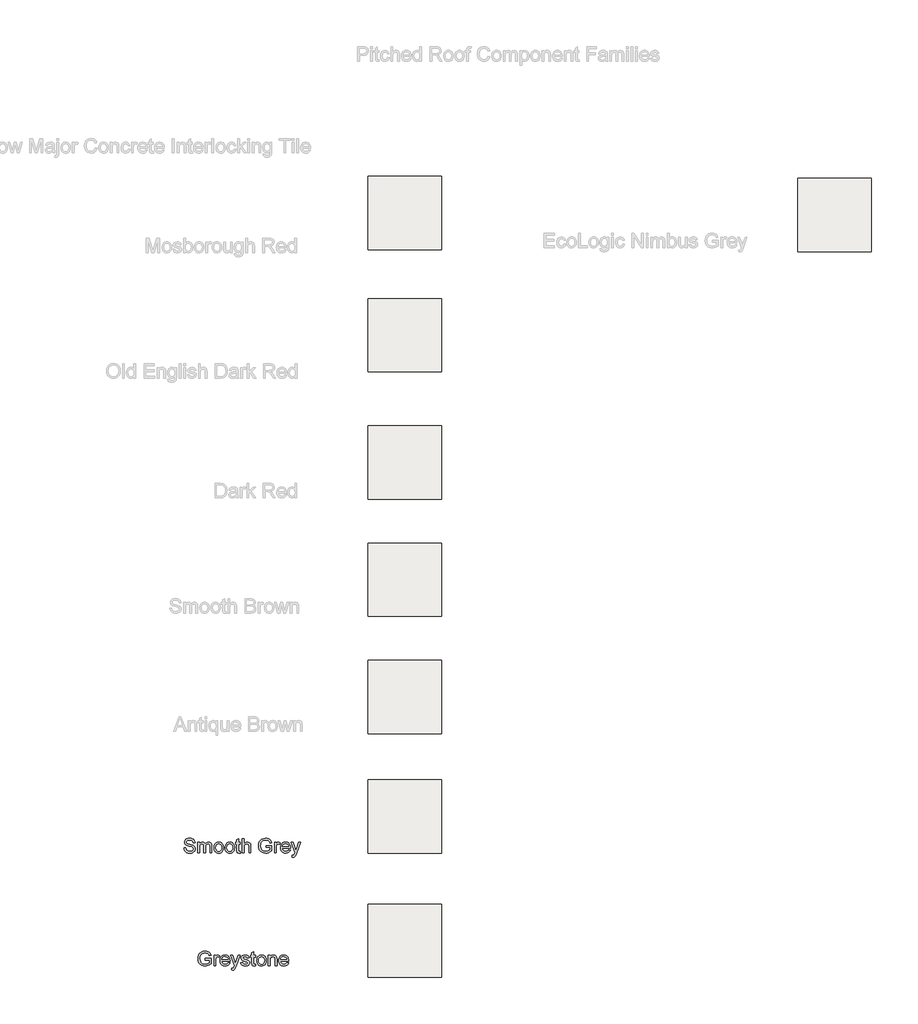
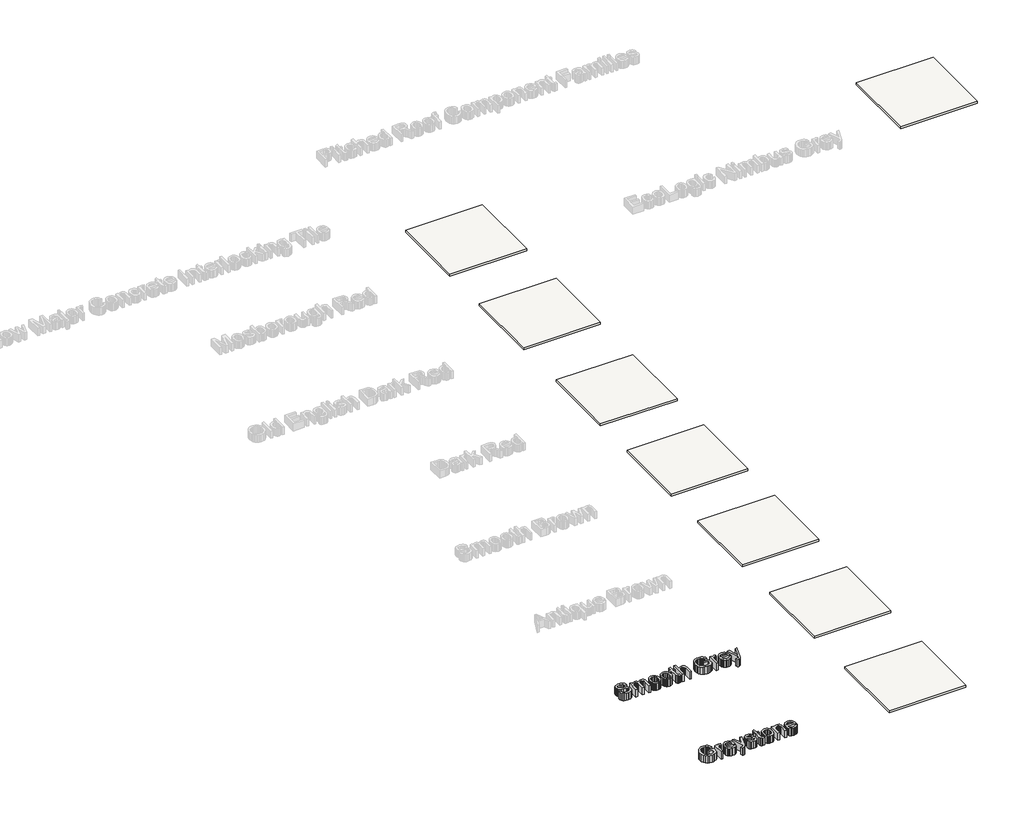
# One storey, part 1 of 6: 8 coverings, 2 proxies.
"""IFC4 building model written with IfcOpenShell, lengths in millimetres."""

from ifc_helpers import new_model, si_unit, frame, origin, place, context, project, spatial, polyline, outline, extrude, element, save

model = new_model("IFC4")

# Units and contexts
model_context = context("Model", 3, world=origin())
ifc_project = project(units=[si_unit("LENGTHUNIT", "METRE", prefix="MILLI")], contexts=[model_context])

# Site, building, storey
site = spatial("IfcSite", under=ifc_project)
building = spatial("IfcBuilding", under=site)
storey = spatial("IfcBuildingStorey", under=building, Name="Marley Concrete Interlocking", Elevation=3000.0)

# Proxies
placement = place(None, origin())
element("IfcBuildingElementProxy", 1, Name="600mm Arial", ObjectType="600mm Arial", at=placement, inside=storey, context=model_context, shape_type="SweptSolid", body=[
    extrude(outline(polyline([(-14943.8968216, -8811.7652828), (-14906.9737447, -8811.7652828), (-14902.7369658, -8832.2550665), (-14895.0747062, -8848.7244175), (-14883.1215812, -8861.7953309), (-14866.0122062, -8872.0898021), (-14845.0987447, -8878.7694896), (-14821.7333601, -8880.9960521), (-14801.1624466, -8879.310355), (-14783.1516293, -8874.2532636), (-14768.5572783, -8866.2484559), (-14758.2357639, -8855.7196098), (-14752.0969418, -8843.6312684), (-14750.0506677, -8830.9479752), (-14751.5831197, -8818.5892011), (-14756.1804754, -8807.9071098), (-14765.5194177, -8798.793528), (-14781.2766293, -8791.1402828), (-14835.0386485, -8777.0417252), (-14870.3301149, -8767.7117973), (-14892.9112447, -8758.8325905), (-14911.2916533, -8746.4107155), (-14924.3174947, -8731.356629), (-14932.0789129, -8713.9948502), (-14934.6660524, -8694.6498982), (-14931.4659322, -8673.0242973), (-14921.8655716, -8652.8590328), (-14906.1173745, -8635.7676867), (-14884.4737447, -8623.3638405), (-14858.4941774, -8615.8187684), (-14829.7381677, -8613.3037444), (-14798.5843216, -8615.9359559), (-14771.3247062, -8623.8325905), (-14748.9328793, -8636.8313886), (-14732.3823985, -8654.7700905), (-14721.9076389, -8676.5309078), (-14717.7429754, -8700.9960521), (-14754.6660524, -8700.9960521), (-14761.4448985, -8678.9648021), (-14775.5795139, -8663.0633598), (-14797.6648504, -8653.4359559), (-14828.2958601, -8650.2268213), (-14859.6480235, -8653.3998982), (-14881.156437, -8662.919129), (-14893.5963408, -8676.9275425), (-14897.7429754, -8693.5681675), (-14894.8042735, -8707.7568694), (-14885.9881677, -8719.169129), (-14865.1468216, -8729.3734559), (-14825.6997062, -8739.794129), (-14760.3631677, -8758.3277828), (-14739.3144899, -8771.7232155), (-14724.6299947, -8788.2556675), (-14716.0031918, -8807.7448502), (-14713.1275908, -8830.0104752), (-14716.4358841, -8852.7718934), (-14726.3607639, -8874.1811482), (-14742.4965812, -8892.606629), (-14764.437687, -8906.4167252), (-14790.8229033, -8915.043528), (-14820.2910524, -8917.919129), (-14856.4659322, -8914.8181675), (-14886.2405716, -8905.5152828), (-14909.9575187, -8889.9744175), (-14927.9593216, -8868.1595136), (-14939.515812, -8841.5849944), (-14943.8968216, -8811.7652828)])), frame((0.0, 0.0, 3000.0), z_axis=(0.0, 0.0, 1.0), x_axis=(1.0, 0.0, 0.0)), (0.0, 0.0, 1.0), 150.0),
    extrude(outline(polyline([(-14662.3583601, -8913.3037444), (-14662.3583601, -8696.3806675), (-14625.4352831, -8696.3806675), (-14625.4352831, -8732.0777828), (-14614.3295139, -8715.6805473), (-14600.0506677, -8702.8349944), (-14583.0855235, -8694.5327107), (-14563.9208601, -8691.7652828), (-14543.3860043, -8694.5867973), (-14526.9256677, -8703.0513405), (-14514.6299947, -8716.6000184), (-14506.5891293, -8734.6739367), (-14493.1305956, -8715.9014006), (-14477.7790331, -8702.4924463), (-14460.5344418, -8694.4470737), (-14441.3968216, -8691.7652828), (-14413.6414129, -8696.2274223), (-14393.1155716, -8709.6138405), (-14380.4322783, -8732.2851146), (-14376.2045139, -8764.6018213), (-14376.2045139, -8913.3037444), (-14413.1275908, -8913.3037444), (-14413.1275908, -8780.4672059), (-14416.5530716, -8749.637879), (-14421.3667735, -8741.137278), (-14428.9569177, -8734.4575905), (-14438.7195379, -8730.1306675), (-14450.0506677, -8728.6883598), (-14470.0536726, -8732.3842732), (-14486.3607639, -8743.4720136), (-14497.2051149, -8762.7087925), (-14500.8198985, -8790.8518213), (-14500.8198985, -8913.3037444), (-14537.7429754, -8913.3037444), (-14537.7429754, -8776.356629), (-14539.8793937, -8755.4792252), (-14546.2886485, -8740.5873982), (-14557.5656918, -8731.6631194), (-14574.3054754, -8728.6883598), (-14588.5302351, -8730.6715328), (-14601.6372062, -8736.6210521), (-14612.4545139, -8746.3926867), (-14619.8102831, -8759.8422059), (-14624.0290331, -8778.5020617), (-14625.4352831, -8803.9047059), (-14625.4352831, -8913.3037444), (-14662.3583601, -8913.3037444)])), frame((0.0, 0.0, 3000.0), z_axis=(0.0, 0.0, 1.0), x_axis=(1.0, 0.0, 0.0)), (0.0, 0.0, 1.0), 150.0),
    extrude(outline(polyline([(-14330.0506677, -8804.8422059), (-14328.053973, -8776.7487564), (-14322.0638889, -8752.5405232), (-14312.0804153, -8732.2175064), (-14298.1035524, -8715.7797059), (-14284.0320379, -8705.2733958), (-14268.500187, -8697.7688886), (-14251.5079995, -8693.2661843), (-14233.0554754, -8691.7652828), (-14212.6851329, -8693.5929571), (-14194.2664129, -8699.07598), (-14177.7993156, -8708.2143514), (-14163.2838408, -8721.0080713), (-14151.4366353, -8737.0244475), (-14142.9743456, -8755.8307877), (-14137.8969718, -8777.4270917), (-14136.2045139, -8801.8133598), (-14139.1973024, -8839.1150425), (-14148.1756677, -8867.5104752), (-14162.8781918, -8888.7754992), (-14183.0434562, -8904.6859559), (-14206.9947783, -8914.6108357), (-14233.0554754, -8917.919129), (-14253.7232939, -8916.0982155), (-14272.3132879, -8910.6354752), (-14288.8254574, -8901.5309078), (-14303.2598024, -8888.7845136), (-14314.980806, -8872.6126386), (-14323.3529514, -8853.231629), (-14328.3762387, -8830.6414848), (-14330.0506677, -8804.8422059)]), holes=[polyline([(-14293.1275908, -8804.7700905), (-14288.8547543, -8838.1865569), (-14276.0362447, -8861.9936482), (-14256.7453793, -8876.2454511), (-14233.0554754, -8880.9960521), (-14209.4737447, -8876.2184078), (-14190.218937, -8861.8854752), (-14177.4004274, -8837.762879), (-14173.1275908, -8803.6162444), (-14177.4274706, -8771.1733357), (-14190.3271101, -8747.6907636), (-14209.608961, -8733.4389607), (-14233.0554754, -8728.6883598), (-14256.7453793, -8733.4209319), (-14276.0362447, -8747.6186482), (-14288.8547543, -8771.371653), (-14293.1275908, -8804.7700905)])]), frame((0.0, 0.0, 3000.0), z_axis=(0.0, 0.0, 1.0), x_axis=(1.0, 0.0, 0.0)), (0.0, 0.0, 1.0), 150.0),
    extrude(outline(polyline([(-14103.8968216, -8804.8422059), (-14101.9001269, -8776.7487564), (-14095.9100427, -8752.5405232), (-14085.9265692, -8732.2175064), (-14071.9497062, -8715.7797059), (-14057.8781918, -8705.2733958), (-14042.3463408, -8697.7688886), (-14025.3541533, -8693.2661843), (-14006.9016293, -8691.7652828), (-13986.5312867, -8693.5929571), (-13968.1125668, -8699.07598), (-13951.6454694, -8708.2143514), (-13937.1299947, -8721.0080713), (-13925.2827891, -8737.0244475), (-13916.8204995, -8755.8307877), (-13911.7431257, -8777.4270917), (-13910.0506677, -8801.8133598), (-13913.0434562, -8839.1150425), (-13922.0218216, -8867.5104752), (-13936.7243456, -8888.7754992), (-13956.8896101, -8904.6859559), (-13980.8409322, -8914.6108357), (-14006.9016293, -8917.919129), (-14027.5694478, -8916.0982155), (-14046.1594418, -8910.6354752), (-14062.6716113, -8901.5309078), (-14077.1059562, -8888.7845136), (-14088.8269598, -8872.6126386), (-14097.1991052, -8853.231629), (-14102.2223925, -8830.6414848), (-14103.8968216, -8804.8422059)]), holes=[polyline([(-14066.9737447, -8804.7700905), (-14062.7009081, -8838.1865569), (-14049.8823985, -8861.9936482), (-14030.5915331, -8876.2454511), (-14006.9016293, -8880.9960521), (-13983.3198985, -8876.2184078), (-13964.0650908, -8861.8854752), (-13951.2465812, -8837.762879), (-13946.9737447, -8803.6162444), (-13951.2736245, -8771.1733357), (-13964.1732639, -8747.6907636), (-13983.4551149, -8733.4389607), (-14006.9016293, -8728.6883598), (-14030.5915331, -8733.4209319), (-14049.8823985, -8747.6186482), (-14062.7009081, -8771.371653), (-14066.9737447, -8804.7700905)])]), frame((0.0, 0.0, 3000.0), z_axis=(0.0, 0.0, 1.0), x_axis=(1.0, 0.0, 0.0)), (0.0, 0.0, 1.0), 150.0),
    extrude(outline(polyline([(-13790.0506677, -8882.5104752), (-13785.4352831, -8914.3854752), (-13813.0554754, -8917.919129), (-13830.7778312, -8916.3866771), (-13843.9929754, -8911.7893213), (-13853.3319177, -8904.7039848), (-13859.4256677, -8895.7075905), (-13862.7790331, -8880.2568694), (-13863.8968216, -8853.8085521), (-13863.8968216, -8733.3037444), (-13891.5891293, -8733.3037444), (-13891.5891293, -8696.3806675), (-13863.8968216, -8696.3806675), (-13863.8968216, -8643.6643213), (-13826.9737447, -8621.9575905), (-13826.9737447, -8696.3806675), (-13790.0506677, -8696.3806675), (-13790.0506677, -8733.3037444), (-13826.9737447, -8733.3037444), (-13826.9737447, -8852.7268213), (-13825.0266293, -8871.7652828), (-13818.7165331, -8878.5080713), (-13806.1323985, -8880.9960521), (-13790.0506677, -8882.5104752)])), frame((0.0, 0.0, 3000.0), z_axis=(0.0, 0.0, 1.0), x_axis=(1.0, 0.0, 0.0)), (0.0, 0.0, 1.0), 150.0),
    extrude(outline(polyline([(-13753.1275908, -8913.3037444), (-13753.1275908, -8617.919129), (-13716.2045139, -8617.919129), (-13716.2045139, -8726.5248982), (-13702.6423144, -8711.3175665), (-13687.4124466, -8700.4551867), (-13670.5149105, -8693.9377588), (-13651.9497062, -8691.7652828), (-13629.6480235, -8694.1360761), (-13610.4833601, -8701.2484559), (-13595.3932158, -8712.543528), (-13585.3150908, -8727.4623982), (-13579.6360043, -8747.9611963), (-13577.7429754, -8775.9960521), (-13577.7429754, -8913.3037444), (-13614.6660524, -8913.3037444), (-13614.6660524, -8779.8181675), (-13617.6047543, -8756.7051867), (-13626.4208601, -8740.8758598), (-13640.6275908, -8731.7352348), (-13659.7381677, -8728.6883598), (-13675.3421341, -8730.7436482), (-13689.9905716, -8736.9095136), (-13702.1239851, -8746.591004), (-13710.1828793, -8759.1931675), (-13714.6991052, -8775.9419655), (-13716.2045139, -8798.0633598), (-13716.2045139, -8913.3037444), (-13753.1275908, -8913.3037444)])), frame((0.0, 0.0, 3000.0), z_axis=(0.0, 0.0, 1.0), x_axis=(1.0, 0.0, 0.0)), (0.0, 0.0, 1.0), 150.0),
    extrude(outline(polyline([(-13268.5122062, -8797.919129), (-13268.5122062, -8760.9960521), (-13148.5122062, -8760.9960521), (-13148.5122062, -8871.4047059), (-13177.6738649, -8891.6871578), (-13207.7549947, -8906.2364367), (-13238.6834802, -8914.9984559), (-13270.3872062, -8917.919129), (-13311.8084802, -8913.2767011), (-13349.2453793, -8899.3494175), (-13380.3451389, -8876.6240569), (-13402.7549947, -8845.5873982), (-13416.3036726, -8808.3578309), (-13420.8198985, -8767.0537444), (-13416.3217014, -8725.4521819), (-13402.8271101, -8686.7532636), (-13380.8950187, -8654.2923261), (-13351.0843216, -8631.4047059), (-13314.7742254, -8617.8289848), (-13273.343937, -8613.3037444), (-13242.9292735, -8615.9269415), (-13215.5795139, -8623.7965328), (-13192.5476629, -8636.3446098), (-13175.0867254, -8653.0032636), (-13162.1690572, -8674.574778), (-13152.7670139, -8701.8614367), (-13186.8054754, -8711.4527828), (-13194.4046341, -8691.9906434), (-13203.6444177, -8677.3061482), (-13215.8679754, -8666.2364367), (-13232.4184562, -8657.6186482), (-13252.1510283, -8652.074778), (-13273.9208601, -8650.2268213), (-13299.4046341, -8652.2190088), (-13321.1924947, -8658.1955713), (-13339.203312, -8667.4083117), (-13353.3559562, -8679.1090328), (-13372.3583601, -8707.5585521), (-13381.0122062, -8735.4311482), (-13383.8968216, -8765.5393213), (-13380.4262687, -8800.8488165), (-13370.0146101, -8829.9023021), (-13352.9773504, -8852.4924463), (-13329.6299947, -8868.4119175), (-13302.3072783, -8877.8500184), (-13273.343937, -8880.9960521), (-13247.7700187, -8878.6252588), (-13222.8271101, -8871.512879), (-13201.1654514, -8861.7142011), (-13185.4352831, -8851.2845136), (-13185.4352831, -8797.919129), (-13268.5122062, -8797.919129)])), frame((0.0, 0.0, 3000.0), z_axis=(0.0, 0.0, 1.0), x_axis=(1.0, 0.0, 0.0)), (0.0, 0.0, 1.0), 150.0),
    extrude(outline(polyline([(-13093.1275908, -8913.3037444), (-13093.1275908, -8696.3806675), (-13060.8198985, -8696.3806675), (-13060.8198985, -8728.4720136), (-13048.8848024, -8709.8662444), (-13037.8872062, -8698.9047059), (-13026.8535524, -8693.5501386), (-13014.8102831, -8691.7652828), (-12996.4208601, -8694.6138405), (-12977.7429754, -8703.1595136), (-12990.0747062, -8736.2604752), (-13003.0554754, -8730.5813886), (-13016.0362447, -8728.6883598), (-13027.0608841, -8730.5092732), (-13036.9136485, -8735.9720136), (-13044.8733841, -8744.6619175), (-13050.218937, -8756.1643213), (-13054.7081197, -8776.7893213), (-13056.2045139, -8799.2893213), (-13056.2045139, -8913.3037444), (-13093.1275908, -8913.3037444)])), frame((0.0, 0.0, 3000.0), z_axis=(0.0, 0.0, 1.0), x_axis=(1.0, 0.0, 0.0)), (0.0, 0.0, 1.0), 150.0),
    extrude(outline(polyline([(-12802.7910524, -8848.6883598), (-12766.5891293, -8853.3037444), (-12779.6329995, -8880.5813886), (-12800.4473024, -8900.9720136), (-12828.5632879, -8913.6823502), (-12863.5122062, -8917.919129), (-12886.4223625, -8916.0914547), (-12906.8355235, -8910.6084319), (-12924.7516894, -8901.4700605), (-12940.1708601, -8888.6763405), (-12952.570199, -8872.5833417), (-12961.4268697, -8853.5471338), (-12966.7408721, -8831.5677167), (-12968.5122062, -8806.6450905), (-12966.7228432, -8780.8773622), (-12961.3547543, -8758.1655232), (-12952.4079394, -8738.5095737), (-12939.8823985, -8721.9095136), (-12924.5037927, -8708.7214127), (-12906.9977831, -8699.3013405), (-12887.3643697, -8693.6492973), (-12865.6035524, -8691.7652828), (-12844.5436064, -8693.6447901), (-12825.4983841, -8699.2833117), (-12808.4678853, -8708.6808478), (-12793.4521101, -8721.8373982), (-12781.1947483, -8738.4014006), (-12772.4394899, -8758.0212925), (-12767.1863348, -8780.6970737), (-12765.4352831, -8806.4287444), (-12765.6516293, -8816.3806675), (-12931.5891293, -8816.3806675), (-12925.1979033, -8844.0188886), (-12910.3511485, -8864.3373982), (-12888.9238649, -8876.8313886), (-12862.7910524, -8880.9960521), (-12843.1396101, -8879.0669655), (-12826.5891293, -8873.2797059), (-12813.1396101, -8863.2736963), (-12802.7910524, -8848.6883598)]), holes=[polyline([(-12931.5891293, -8779.4575905), (-12802.3583601, -8779.4575905), (-12807.3523504, -8759.950379), (-12817.1420139, -8745.9960521), (-12838.6684562, -8733.0152828), (-12865.7477831, -8728.6883598), (-12890.6366052, -8732.1408838), (-12911.2165331, -8742.4984559), (-12925.5224226, -8758.6432877), (-12931.5891293, -8779.4575905)])]), frame((0.0, 0.0, 3000.0), z_axis=(0.0, 0.0, 1.0), x_axis=(1.0, 0.0, 0.0)), (0.0, 0.0, 1.0), 150.0),
    extrude(outline(polyline([(-12728.5122062, -8996.3806675), (-12733.1275908, -8960.8277828), (-12714.3775908, -8964.0729752), (-12696.8535524, -8959.9984559), (-12686.1083601, -8948.6402828), (-12676.0122062, -8921.4527828), (-12673.1275908, -8912.5104752), (-12751.5891293, -8696.3806675), (-12712.6468216, -8696.3806675), (-12671.0362447, -8816.8133598), (-12656.5410524, -8864.9864367), (-12642.0458601, -8822.4383598), (-12599.281437, -8696.3806675), (-12560.6275908, -8696.3806675), (-12636.1323985, -8918.4960521), (-12655.7477831, -8966.669129), (-12665.7898504, -8982.0477348), (-12677.1660524, -8992.7027828), (-12690.3811966, -8998.9227348), (-12705.9400908, -9000.9960521), (-12728.5122062, -8996.3806675)])), frame((0.0, 0.0, 3000.0), z_axis=(0.0, 0.0, 1.0), x_axis=(1.0, 0.0, 0.0)), (0.0, 0.0, 1.0), 150.0),
])
element("IfcBuildingElementProxy", 2, Name="600mm Arial", ObjectType="600mm Arial", at=placement, inside=storey, context=model_context, shape_type="SweptSolid", body=[
    extrude(outline(polyline([(-14506.0567967, -11105.6704401), (-14506.0567967, -11068.7473632), (-14386.0567967, -11068.7473632), (-14386.0567967, -11179.156017), (-14415.2184553, -11199.4384689), (-14445.2995851, -11213.9877478), (-14476.2280707, -11222.749767), (-14507.9317967, -11225.6704401), (-14549.3530707, -11221.0280122), (-14586.7899698, -11207.1007286), (-14617.8897294, -11184.375368), (-14640.2995851, -11153.3387093), (-14653.848263, -11116.109142), (-14658.364489, -11074.8050555), (-14653.8662919, -11033.203493), (-14640.3717005, -10994.5045747), (-14618.4396092, -10962.0436372), (-14588.6289121, -10939.156017), (-14552.3188159, -10925.5802959), (-14510.8885275, -10921.0550555), (-14480.473864, -10923.6782526), (-14453.1241044, -10931.5478439), (-14430.0922534, -10944.0959209), (-14412.6313159, -10960.7545747), (-14399.7136476, -10982.3260891), (-14390.3116044, -11009.6127478), (-14424.3500659, -11019.2040939), (-14431.9492246, -10999.7419545), (-14441.1890082, -10985.0574593), (-14453.4125659, -10973.9877478), (-14469.9630467, -10965.3699593), (-14489.6956188, -10959.8260891), (-14511.4654505, -10957.9781324), (-14536.9492246, -10959.9703199), (-14558.7370851, -10965.9468824), (-14576.7479025, -10975.1596228), (-14590.9005467, -10986.8603439), (-14609.9029505, -11015.3098632), (-14618.5567967, -11043.1824593), (-14621.4414121, -11073.2906324), (-14617.9708592, -11108.6001276), (-14607.5592005, -11137.6536132), (-14590.5219409, -11160.2437574), (-14567.1745851, -11176.1632286), (-14539.8518688, -11185.6013295), (-14510.8885275, -11188.7473632), (-14485.3146092, -11186.3765699), (-14460.3717005, -11179.2641901), (-14438.7100419, -11169.4655122), (-14422.9798736, -11159.0358247), (-14422.9798736, -11105.6704401), (-14506.0567967, -11105.6704401)])), frame((0.0, 0.0, 3000.0), z_axis=(0.0, 0.0, 1.0), x_axis=(1.0, 0.0, 0.0)), (0.0, 0.0, 1.0), 150.0),
    extrude(outline(polyline([(-14330.6721813, -11221.0550555), (-14330.6721813, -11004.1319786), (-14298.364489, -11004.1319786), (-14298.364489, -11036.2233247), (-14286.4293928, -11017.6175555), (-14275.4317967, -11006.656017), (-14264.3981428, -11001.3014497), (-14252.3548736, -10999.5165939), (-14233.9654505, -11002.3651516), (-14215.2875659, -11010.9108247), (-14227.6192967, -11044.0117862), (-14240.6000659, -11038.3326997), (-14253.5808351, -11036.4396709), (-14264.6054746, -11038.2605843), (-14274.458239, -11043.7233247), (-14282.4179746, -11052.4132286), (-14287.7635275, -11063.9156324), (-14292.2527101, -11084.5406324), (-14293.7491044, -11107.0406324), (-14293.7491044, -11221.0550555), (-14330.6721813, -11221.0550555)])), frame((0.0, 0.0, 3000.0), z_axis=(0.0, 0.0, 1.0), x_axis=(1.0, 0.0, 0.0)), (0.0, 0.0, 1.0), 150.0),
    extrude(outline(polyline([(-14040.3356428, -11156.4396709), (-14004.1337198, -11161.0550555), (-14017.17759, -11188.3326997), (-14037.9918928, -11208.7233247), (-14066.1078784, -11221.4336612), (-14101.0567967, -11225.6704401), (-14123.9669529, -11223.8427658), (-14144.380114, -11218.359743), (-14162.2962799, -11209.2213716), (-14177.7154505, -11196.4276516), (-14190.1147895, -11180.3346528), (-14198.9714601, -11161.2984449), (-14204.2854626, -11139.3190278), (-14206.0567967, -11114.3964016), (-14204.2674337, -11088.6286733), (-14198.8993448, -11065.9168343), (-14189.9525299, -11046.2608848), (-14177.426989, -11029.6608247), (-14162.0483832, -11016.4727237), (-14144.5423736, -11007.0526516), (-14124.9089601, -11001.4006084), (-14103.1481428, -10999.5165939), (-14082.0881969, -11001.3961012), (-14063.0429746, -11007.0346228), (-14046.0124758, -11016.4321588), (-14030.9967005, -11029.5887093), (-14018.7393388, -11046.1527117), (-14009.9840803, -11065.7726036), (-14004.7309253, -11088.4483848), (-14002.9798736, -11114.1800555), (-14003.1962198, -11124.1319786), (-14169.1337198, -11124.1319786), (-14162.7424938, -11151.7701997), (-14147.895739, -11172.0887093), (-14126.4684553, -11184.5826997), (-14100.3356428, -11188.7473632), (-14080.6842005, -11186.8182766), (-14064.1337198, -11181.031017), (-14050.6842005, -11171.0250074), (-14040.3356428, -11156.4396709)]), holes=[polyline([(-14169.1337198, -11087.2089016), (-14039.9029505, -11087.2089016), (-14044.8969409, -11067.7016901), (-14054.6866044, -11053.7473632), (-14076.2130467, -11040.7665939), (-14103.2923736, -11036.4396709), (-14128.1811957, -11039.8921949), (-14148.7611236, -11050.249767), (-14163.067013, -11066.3945987), (-14169.1337198, -11087.2089016)])]), frame((0.0, 0.0, 3000.0), z_axis=(0.0, 0.0, 1.0), x_axis=(1.0, 0.0, 0.0)), (0.0, 0.0, 1.0), 150.0),
    extrude(outline(polyline([(-13966.0567967, -11304.1319786), (-13970.6721813, -11268.5790939), (-13951.9221813, -11271.8242862), (-13934.3981428, -11267.749767), (-13923.6529505, -11256.3915939), (-13913.5567967, -11229.2040939), (-13910.6721813, -11220.2617862), (-13989.1337198, -11004.1319786), (-13950.1914121, -11004.1319786), (-13908.5808351, -11124.5646709), (-13894.0856428, -11172.7377478), (-13879.5904505, -11130.1896709), (-13836.8260275, -11004.1319786), (-13798.1721813, -11004.1319786), (-13873.676989, -11226.2473632), (-13893.2923736, -11274.4204401), (-13903.3344409, -11289.7990459), (-13914.7106428, -11300.4540939), (-13927.9257871, -11306.6740459), (-13943.4846813, -11308.7473632), (-13966.0567967, -11304.1319786)])), frame((0.0, 0.0, 3000.0), z_axis=(0.0, 0.0, 1.0), x_axis=(1.0, 0.0, 0.0)), (0.0, 0.0, 1.0), 150.0),
    extrude(outline(polyline([(-13781.4414121, -11156.4396709), (-13744.5183351, -11151.8242862), (-13738.6950178, -11167.6175555), (-13727.426989, -11179.2281324), (-13710.6421332, -11186.3675555), (-13688.2683351, -11188.7473632), (-13666.1649698, -11186.5658728), (-13650.6241044, -11180.0214016), (-13641.4293928, -11170.5382286), (-13638.364489, -11159.5406324), (-13641.4474217, -11150.1295747), (-13650.6962198, -11142.9540939), (-13688.7010275, -11132.4252478), (-13744.301989, -11114.3603439), (-13758.3735034, -11105.2828199), (-13768.5688159, -11093.2665939), (-13774.7617246, -11079.077892), (-13776.8260275, -11063.4829401), (-13775.1673736, -11049.1770507), (-13770.1914121, -11035.9709209), (-13762.348864, -11024.3873872), (-13752.0904505, -11014.9492862), (-13728.6168928, -11004.0238055), (-13696.8500659, -10999.5165939), (-13672.817614, -11001.328493), (-13651.9221813, -11006.7641901), (-13635.1192967, -11015.2918343), (-13623.364489, -11026.3795747), (-13615.5760275, -11040.8477237), (-13610.6721813, -11059.5165939), (-13647.5952582, -11064.1319786), (-13652.255715, -11052.5123872), (-13661.4774698, -11043.7593824), (-13675.3506669, -11038.2695987), (-13693.9654505, -11036.4396709), (-13715.1673736, -11038.1884689), (-13729.301989, -11043.4348632), (-13737.2527101, -11051.0069786), (-13739.9029505, -11059.7329401), (-13735.5039121, -11070.4781324), (-13721.7298736, -11078.6271709), (-13689.926989, -11086.4877478), (-13635.7322775, -11103.8675555), (-13621.4173736, -11112.1788536), (-13610.5640082, -11123.5550555), (-13603.7220611, -11138.0322189), (-13601.4414121, -11155.6464016), (-13604.1186957, -11173.8555362), (-13612.1505467, -11190.9829401), (-13625.2304746, -11205.6854641), (-13643.051989, -11216.6199593), (-13664.5784313, -11223.4078199), (-13688.7731428, -11225.6704401), (-13726.0027101, -11221.3074593), (-13753.1721813, -11208.218517), (-13771.3092005, -11186.5478439), (-13781.4414121, -11156.4396709)])), frame((0.0, 0.0, 3000.0), z_axis=(0.0, 0.0, 1.0), x_axis=(1.0, 0.0, 0.0)), (0.0, 0.0, 1.0), 150.0),
    extrude(outline(polyline([(-13481.4414121, -11190.2617862), (-13476.8260275, -11222.1367862), (-13504.4462198, -11225.6704401), (-13522.1685755, -11224.1379882), (-13535.3837198, -11219.5406324), (-13544.7226621, -11212.4552959), (-13550.8164121, -11203.4589016), (-13554.1697775, -11188.0081805), (-13555.2875659, -11161.5598632), (-13555.2875659, -11041.0550555), (-13582.9798736, -11041.0550555), (-13582.9798736, -11004.1319786), (-13555.2875659, -11004.1319786), (-13555.2875659, -10951.4156324), (-13518.364489, -10929.7089016), (-13518.364489, -11004.1319786), (-13481.4414121, -11004.1319786), (-13481.4414121, -11041.0550555), (-13518.364489, -11041.0550555), (-13518.364489, -11160.4781324), (-13516.4173736, -11179.5165939), (-13510.1072775, -11186.2593824), (-13497.5231428, -11188.7473632), (-13481.4414121, -11190.2617862)])), frame((0.0, 0.0, 3000.0), z_axis=(0.0, 0.0, 1.0), x_axis=(1.0, 0.0, 0.0)), (0.0, 0.0, 1.0), 150.0),
    extrude(outline(polyline([(-13453.7491044, -11112.593517), (-13451.7524097, -11084.5000675), (-13445.7623255, -11060.2918343), (-13435.778852, -11039.9688175), (-13421.801989, -11023.531017), (-13407.7304746, -11013.0247069), (-13392.1986236, -11005.5201997), (-13375.2064361, -11001.0174954), (-13356.7539121, -10999.5165939), (-13336.3835695, -11001.3442682), (-13317.9648496, -11006.8272911), (-13301.4977522, -11015.9656624), (-13286.9822775, -11028.7593824), (-13275.1350719, -11044.7757586), (-13266.6727823, -11063.5820987), (-13261.5954085, -11085.1784028), (-13259.9029505, -11109.5646709), (-13262.895739, -11146.8663536), (-13271.8741044, -11175.2617862), (-13286.5766284, -11196.5268103), (-13306.7418928, -11212.437267), (-13330.693215, -11222.3621468), (-13356.7539121, -11225.6704401), (-13377.4217306, -11223.8495266), (-13396.0117246, -11218.3867862), (-13412.523894, -11209.2822189), (-13426.958239, -11196.5358247), (-13438.6792426, -11180.3639497), (-13447.051388, -11160.9829401), (-13452.0746753, -11138.3927959), (-13453.7491044, -11112.593517)]), holes=[polyline([(-13416.8260275, -11112.5214016), (-13412.5531909, -11145.937868), (-13399.7346813, -11169.7449593), (-13380.4438159, -11183.9967622), (-13356.7539121, -11188.7473632), (-13333.1721813, -11183.9697189), (-13313.9173736, -11169.6367862), (-13301.098864, -11145.5141901), (-13296.8260275, -11111.3675555), (-13301.1259073, -11078.9246468), (-13314.0255467, -11055.4420747), (-13333.3073976, -11041.1902718), (-13356.7539121, -11036.4396709), (-13380.4438159, -11041.172243), (-13399.7346813, -11055.3699593), (-13412.5531909, -11079.1229641), (-13416.8260275, -11112.5214016)])]), frame((0.0, 0.0, 3000.0), z_axis=(0.0, 0.0, 1.0), x_axis=(1.0, 0.0, 0.0)), (0.0, 0.0, 1.0), 150.0),
    extrude(outline(polyline([(-13218.364489, -11221.0550555), (-13218.364489, -11004.1319786), (-13181.4414121, -11004.1319786), (-13181.4414121, -11034.4204401), (-13168.613888, -11019.1500074), (-13153.208239, -11008.2425555), (-13135.224465, -11001.6980843), (-13114.6625659, -10999.5165939), (-13096.4624457, -11001.2744064), (-13079.7947775, -11006.5478439), (-13065.8945371, -11014.6788536), (-13055.9967005, -11025.0093824), (-13044.926989, -11052.1608247), (-13042.9798736, -11087.8579401), (-13042.9798736, -11221.0550555), (-13079.9029505, -11221.0550555), (-13079.9029505, -11092.8339016), (-13084.1577582, -11060.1656324), (-13090.0441765, -11050.4390699), (-13099.1938159, -11042.8939978), (-13110.9215803, -11038.0532526), (-13124.5423736, -11036.4396709), (-13146.1679746, -11040.0634689), (-13164.6024698, -11050.9348632), (-13171.969507, -11059.8095627), (-13177.2316765, -11071.9384689), (-13181.4414121, -11105.9589016), (-13181.4414121, -11221.0550555), (-13218.364489, -11221.0550555)])), frame((0.0, 0.0, 3000.0), z_axis=(0.0, 0.0, 1.0), x_axis=(1.0, 0.0, 0.0)), (0.0, 0.0, 1.0), 150.0),
    extrude(outline(polyline([(-12840.3356428, -11156.4396709), (-12804.1337198, -11161.0550555), (-12817.17759, -11188.3326997), (-12837.9918928, -11208.7233247), (-12866.1078784, -11221.4336612), (-12901.0567967, -11225.6704401), (-12923.9669529, -11223.8427658), (-12944.380114, -11218.359743), (-12962.2962799, -11209.2213716), (-12977.7154505, -11196.4276516), (-12990.1147895, -11180.3346528), (-12998.9714601, -11161.2984449), (-13004.2854626, -11139.3190278), (-13006.0567967, -11114.3964016), (-13004.2674337, -11088.6286733), (-12998.8993448, -11065.9168343), (-12989.9525299, -11046.2608848), (-12977.426989, -11029.6608247), (-12962.0483832, -11016.4727237), (-12944.5423736, -11007.0526516), (-12924.9089601, -11001.4006084), (-12903.1481428, -10999.5165939), (-12882.0881969, -11001.3961012), (-12863.0429746, -11007.0346228), (-12846.0124758, -11016.4321588), (-12830.9967005, -11029.5887093), (-12818.7393388, -11046.1527117), (-12809.9840803, -11065.7726036), (-12804.7309253, -11088.4483848), (-12802.9798736, -11114.1800555), (-12803.1962198, -11124.1319786), (-12969.1337198, -11124.1319786), (-12962.7424938, -11151.7701997), (-12947.895739, -11172.0887093), (-12926.4684553, -11184.5826997), (-12900.3356428, -11188.7473632), (-12880.6842005, -11186.8182766), (-12864.1337198, -11181.031017), (-12850.6842005, -11171.0250074), (-12840.3356428, -11156.4396709)]), holes=[polyline([(-12969.1337198, -11087.2089016), (-12839.9029505, -11087.2089016), (-12844.8969409, -11067.7016901), (-12854.6866044, -11053.7473632), (-12876.2130467, -11040.7665939), (-12903.2923736, -11036.4396709), (-12928.1811957, -11039.8921949), (-12948.7611236, -11050.249767), (-12963.067013, -11066.3945987), (-12969.1337198, -11087.2089016)])]), frame((0.0, 0.0, 3000.0), z_axis=(0.0, 0.0, 1.0), x_axis=(1.0, 0.0, 0.0)), (0.0, 0.0, 1.0), 150.0),
])

# Coverings
element("IfcCovering", 3, ObjectType="Marley_ConcreteInterlockingTile-LudlowMajorMosboroughRed", at=placement, inside=storey, context=model_context, shape_type="SweptSolid", body=[
    extrude(outline(polyline([(-11179.4210295, 3421.5142646), (-11179.4210295, 4921.5142646), (-9679.4210295, 4921.5142646), (-9679.4210295, 3421.5142646), (-11179.4210295, 3421.5142646)])), frame((0.0, 0.0, 3000.0), z_axis=(0.0, 0.0, 1.0), x_axis=(1.0, 0.0, 0.0)), (0.0, 0.0, 1.0), 42.0),
])
element("IfcCovering", 4, ObjectType="Marley_ConcreteInterlockingTile-LudlowMajorOEDR", at=placement, inside=storey, context=model_context, shape_type="SweptSolid", body=[
    extrude(outline(polyline([(-11179.4210295, 921.5142646), (-11179.4210295, 2421.5142646), (-9679.4210295, 2421.5142646), (-9679.4210295, 921.5142646), (-11179.4210295, 921.5142646)])), frame((0.0, 0.0, 3000.0), z_axis=(0.0, 0.0, 1.0), x_axis=(1.0, 0.0, 0.0)), (0.0, 0.0, 1.0), 42.0),
])
element("IfcCovering", 5, ObjectType="Marley_ConcreteInterlockingTile-LudlowMajorDarkRed", at=placement, inside=storey, context=model_context, shape_type="SweptSolid", body=[
    extrude(outline(polyline([(-11179.4210295, -1678.4857354), (-11179.4210295, -178.4857354), (-9679.4210295, -178.4857354), (-9679.4210295, -1678.4857354), (-11179.4210295, -1678.4857354)])), frame((0.0, 0.0, 3000.0), z_axis=(0.0, 0.0, 1.0), x_axis=(1.0, 0.0, 0.0)), (0.0, 0.0, 1.0), 42.0),
])
element("IfcCovering", 6, ObjectType="Marley_ConcreteInterlockingTile-LudlowMajorSmoothBrown", at=placement, inside=storey, context=model_context, shape_type="SweptSolid", body=[
    extrude(outline(polyline([(-11179.4210295, -4078.4857354), (-11179.4210295, -2578.4857354), (-9679.4210295, -2578.4857354), (-9679.4210295, -4078.4857354), (-11179.4210295, -4078.4857354)])), frame((0.0, 0.0, 3000.0), z_axis=(0.0, 0.0, 1.0), x_axis=(1.0, 0.0, 0.0)), (0.0, 0.0, 1.0), 42.0),
])
element("IfcCovering", 7, ObjectType="Marley_ConcreteInterlockingTile-LudlowMajorAntiqueBrown", at=placement, inside=storey, context=model_context, shape_type="SweptSolid", body=[
    extrude(outline(polyline([(-11179.4210295, -6478.4857354), (-11179.4210295, -4978.4857354), (-9679.4210295, -4978.4857354), (-9679.4210295, -6478.4857354), (-11179.4210295, -6478.4857354)])), frame((0.0, 0.0, 3000.0), z_axis=(0.0, 0.0, 1.0), x_axis=(1.0, 0.0, 0.0)), (0.0, 0.0, 1.0), 42.0),
])
element("IfcCovering", 8, ObjectType="Marley_ConcreteInterlockingTile-LudlowMajorSmoothGrey", at=placement, inside=storey, context=model_context, shape_type="SweptSolid", body=[
    extrude(outline(polyline([(-11179.4210295, -8918.4857354), (-11179.4210295, -7418.4857354), (-9679.4210295, -7418.4857354), (-9679.4210295, -8918.4857354), (-11179.4210295, -8918.4857354)])), frame((0.0, 0.0, 3000.0), z_axis=(0.0, 0.0, 1.0), x_axis=(1.0, 0.0, 0.0)), (0.0, 0.0, 1.0), 42.0),
])
element("IfcCovering", 9, ObjectType="Marley_ConcreteInterlockingTile-LudlowMajorGreyStone", at=placement, inside=storey, context=model_context, shape_type="SweptSolid", body=[
    extrude(outline(polyline([(-11179.4210295, -11458.4857354), (-11179.4210295, -9958.4857354), (-9679.4210295, -9958.4857354), (-9679.4210295, -11458.4857354), (-11179.4210295, -11458.4857354)])), frame((0.0, 0.0, 3000.0), z_axis=(0.0, 0.0, 1.0), x_axis=(1.0, 0.0, 0.0)), (0.0, 0.0, 1.0), 42.0),
])
element("IfcCovering", 10, ObjectType="Marley_ConcreteInterlockingTile-LudlowMajorEcologicNimbusGrey", at=placement, inside=storey, context=model_context, shape_type="SweptSolid", body=[
    extrude(outline(polyline([(-2387.6162708, 3376.1685142), (-2387.6162708, 4876.1685142), (-887.6162708, 4876.1685142), (-887.6162708, 3376.1685142), (-2387.6162708, 3376.1685142)])), frame((0.0, 0.0, 3000.0), z_axis=(0.0, 0.0, 1.0), x_axis=(1.0, 0.0, 0.0)), (0.0, 0.0, 1.0), 42.0),
])

save(model, "model.ifc")
